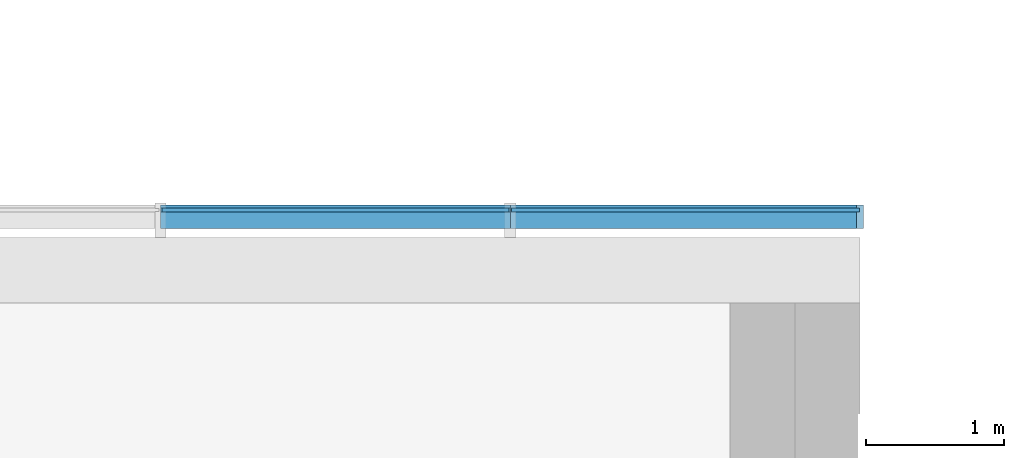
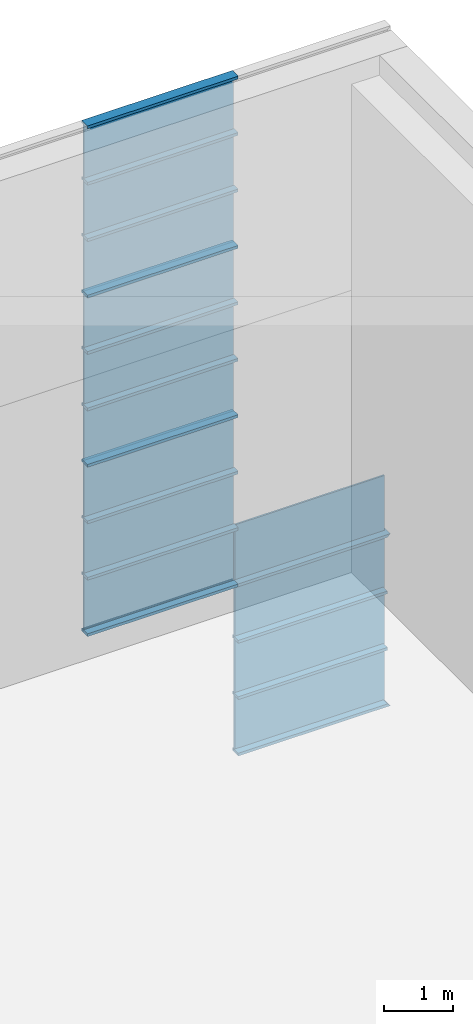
# One storey, part 64 of 105: 30 building element parts, 4 elements without a shape of their own.
"""IFC4 building model written with IfcOpenShell, lengths in millimetres."""

from ifc_helpers import new_model, entity, si_unit, converted_unit, derived_unit, direction, frame, origin_with_axes, place, context, subcontext, project, spatial, triangles, material, element, aggregate, save


model = new_model("IFC4")

# Units and contexts
model_context = context("Model", 3, precision=1e-05, world=origin_with_axes(), true_north=direction((0.0, 1.0)))
body_context = subcontext(model_context, "Body", "Model", "MODEL_VIEW")
ifc_project = project(units=[si_unit("LENGTHUNIT", "METRE", prefix="MILLI"), si_unit("AREAUNIT", "SQUARE_METRE"), si_unit("VOLUMEUNIT", "CUBIC_METRE"), converted_unit("PLANEANGLEUNIT", "DEGREE", entity("IfcLengthMeasure", 0.017453), si_unit("PLANEANGLEUNIT", "RADIAN"), dimensions=[0, 0, 0, 0, 0, 0, 0]), si_unit("SOLIDANGLEUNIT", "STERADIAN"), si_unit("MASSUNIT", "GRAM"), si_unit("TIMEUNIT", "SECOND"), si_unit("THERMODYNAMICTEMPERATUREUNIT", "DEGREE_CELSIUS"), si_unit("LUMINOUSINTENSITYUNIT", "LUMEN"), si_unit("POWERUNIT", "WATT"), derived_unit("THERMALTRANSMITTANCEUNIT", [(si_unit("POWERUNIT", "WATT"), 1), (si_unit("THERMODYNAMICTEMPERATUREUNIT", "KELVIN"), -1), (si_unit("AREAUNIT", "SQUARE_METRE"), -1)])], contexts=[model_context])

# Site, building, storey
site_placement = place(None, origin_with_axes())
site = spatial("IfcSite", under=ifc_project, at=site_placement, Name="Default Site", CompositionType="ELEMENT")
building_placement = place(site_placement, origin_with_axes())
building = spatial("IfcBuilding", under=site, at=building_placement, Name="Default Building", CompositionType="ELEMENT")
storey_placement = place(building_placement, origin_with_axes())
storey = spatial("IfcBuildingStorey", under=building, at=storey_placement, Name="OG - Story", CompositionType="ELEMENT", Elevation=0.0)

# Curtain wall, building element parts
curtain_wall_1_placement = place(storey_placement, origin_with_axes())
curtain_wall_1 = element("IfcCurtainWall", 1, at=curtain_wall_1_placement, inside=storey, Name="Fassade-004", PredefinedType="NOTDEFINED")
ifc_material_1 = material(Name="Normalglas")
building_element_part_1_placement = place(curtain_wall_1_placement, frame((33014.549222, -4389.262838, 0.0), z_axis=(0.0, 0.0, 1.0), x_axis=(1.0, 0.0, 0.0)))
building_element_part_1 = element("IfcBuildingElementPart", 2, at=building_element_part_1_placement, material=ifc_material_1, Name="Normalglas", PredefinedType="NOTDEFINED", context=body_context, shape_type="Tessellation", body=[
    triangles([(46731.842, -14.999, 995.0), (46731.842, 15.0, 995.0), (44220.526, 15.0, 995.0), (44220.526, -14.999, 995.0), (46731.842, -14.999, 5.0), (46731.842, 15.0, 5.0), (44220.526, 15.0, 5.0), (44220.526, -14.999, 5.0)], [[1, 2, 3], [1, 3, 4], [5, 6, 2], [5, 2, 1], [2, 6, 7], [2, 7, 3], [4, 3, 7], [4, 7, 8], [1, 4, 8], [1, 8, 5], [8, 7, 6], [8, 6, 5]], closed=False),
])
building_element_part_2_placement = place(curtain_wall_1_placement, frame((33014.549222, -4389.262838, 0.0), z_axis=(0.0, 0.0, 1.0), x_axis=(1.0, 0.0, 0.0)))
building_element_part_2 = element("IfcBuildingElementPart", 3, at=building_element_part_2_placement, material=ifc_material_1, Name="Normalglas", PredefinedType="NOTDEFINED", context=body_context, shape_type="Tessellation", body=[
    triangles([(46731.842, -14.999, 1995.0), (46731.842, 15.0, 1995.0), (44220.526, 15.0, 1995.0), (44220.526, -14.999, 1995.0), (46731.842, -14.999, 1005.0), (46731.842, 15.0, 1005.0), (44220.526, 15.0, 1005.0), (44220.526, -14.999, 1005.0)], [[1, 2, 3], [1, 3, 4], [5, 6, 2], [5, 2, 1], [2, 6, 7], [2, 7, 3], [4, 3, 7], [4, 7, 8], [1, 4, 8], [1, 8, 5], [8, 7, 6], [8, 6, 5]], closed=False),
])
building_element_part_3_placement = place(curtain_wall_1_placement, frame((33014.549222, -4389.262838, 0.0), z_axis=(0.0, 0.0, 1.0), x_axis=(1.0, 0.0, 0.0)))
building_element_part_3 = element("IfcBuildingElementPart", 4, at=building_element_part_3_placement, material=ifc_material_1, Name="Normalglas", PredefinedType="NOTDEFINED", context=body_context, shape_type="Tessellation", body=[
    triangles([(46731.842, -14.999, 2995.0), (46731.842, 15.0, 2995.0), (44220.526, 15.0, 2995.0), (44220.526, -14.999, 2995.0), (46731.842, -14.999, 2005.0), (46731.842, 15.0, 2005.0), (44220.526, 15.0, 2005.0), (44220.526, -14.999, 2005.0)], [[1, 2, 3], [1, 3, 4], [5, 6, 2], [5, 2, 1], [2, 6, 7], [2, 7, 3], [4, 3, 7], [4, 7, 8], [1, 4, 8], [1, 8, 5], [8, 7, 6], [8, 6, 5]], closed=False),
])
ifc_material_2 = material(Name="Blech")
building_element_part_4_placement = place(curtain_wall_1_placement, frame((33014.549222, -4389.262838, 0.0), z_axis=(0.0, 0.0, 1.0), x_axis=(1.0, 0.0, 0.0)))
building_element_part_4 = element("IfcBuildingElementPart", 5, at=building_element_part_4_placement, material=ifc_material_2, Name="Blech", PredefinedType="NOTDEFINED", context=body_context, shape_type="Tessellation", body=[
    triangles([(46761.842, 35.0, -24.999), (46711.842, 35.0, 25.0), (46711.842, 15.0, 25.0), (46731.842, 15.0, 5.0), (46731.842, -14.999, 5.0), (46711.842, -132.999, 25.0), (46761.842, -132.999, -24.999), (46711.842, -14.999, 25.0), (44210.526, -14.999, 5.0), (44210.526, -14.999, 25.0), (44210.526, -132.999, 25.0), (44210.526, -132.999, -24.999), (44210.526, 35.0, -24.999), (44210.526, 35.0, 25.0), (44210.526, 15.0, 25.0), (44210.526, 15.0, 5.0)], [[1, 2, 3], [1, 3, 4], [1, 4, 5], [1, 5, 6], [1, 6, 7], [8, 6, 5], [5, 9, 10], [5, 10, 8], [10, 11, 6], [10, 6, 8], [11, 12, 7], [11, 7, 6], [12, 13, 1], [12, 1, 7], [13, 14, 2], [13, 2, 1], [3, 2, 14], [3, 14, 15], [15, 16, 4], [15, 4, 3], [4, 16, 9], [4, 9, 5], [15, 16, 13], [13, 16, 9], [13, 9, 11], [11, 9, 10], [13, 11, 12], [15, 13, 14]], closed=False),
])
building_element_part_5_placement = place(curtain_wall_1_placement, frame((33014.549222, -4389.262838, 0.0), z_axis=(0.0, 0.0, 1.0), x_axis=(1.0, 0.0, 0.0)))
building_element_part_5 = element("IfcBuildingElementPart", 6, at=building_element_part_5_placement, material=ifc_material_2, Name="Blech", PredefinedType="NOTDEFINED", context=body_context, shape_type="Tessellation", body=[
    triangles([(46711.842, 35.0, 975.0), (46711.842, 15.0, 975.0), (46711.842, 35.0, 1025.0), (46711.842, 15.0, 995.0), (46711.842, 15.0, 1005.0), (46711.842, -14.999, 995.0), (46711.842, -14.999, 1005.0), (46711.842, -14.999, 1025.0), (46711.842, -14.999, 975.0), (46711.842, -132.999, 975.0), (46711.842, -132.999, 1025.0), (46711.842, 15.0, 1025.0), (44210.526, -14.999, 995.0), (44210.526, 15.0, 995.0), (44210.526, 15.0, 975.0), (44210.526, 35.0, 975.0), (44210.526, 35.0, 1025.0), (44210.526, 15.0, 1025.0), (44210.526, 15.0, 1005.0), (44210.526, -14.999, 1005.0), (44210.526, -14.999, 1025.0), (44210.526, -132.999, 1025.0), (44210.526, -132.999, 975.0), (44210.526, -14.999, 975.0)], [[1, 2, 3], [3, 2, 4], [3, 4, 5], [5, 4, 6], [5, 6, 7], [8, 9, 10], [8, 10, 11], [3, 5, 12], [6, 13, 14], [6, 14, 4], [4, 14, 15], [4, 15, 2], [15, 16, 1], [15, 1, 2], [1, 16, 17], [1, 17, 3], [18, 12, 3], [18, 3, 17], [12, 18, 19], [12, 19, 5], [7, 5, 19], [7, 19, 20], [8, 7, 20], [8, 20, 21], [8, 21, 22], [8, 22, 11], [11, 22, 23], [11, 23, 10], [9, 10, 23], [9, 23, 24], [9, 24, 13], [9, 13, 6], [17, 18, 16], [16, 18, 19], [16, 19, 14], [14, 19, 20], [14, 20, 13], [24, 21, 22], [24, 22, 23], [16, 14, 15]], closed=False),
])
building_element_part_6_placement = place(curtain_wall_1_placement, frame((33014.549222, -4389.262838, 0.0), z_axis=(0.0, 0.0, 1.0), x_axis=(1.0, 0.0, 0.0)))
building_element_part_6 = element("IfcBuildingElementPart", 7, at=building_element_part_6_placement, material=ifc_material_2, Name="Blech", PredefinedType="NOTDEFINED", context=body_context, shape_type="Tessellation", body=[
    triangles([(44210.526, 15.0, 2975.0), (44210.526, 15.0, 2995.0), (44210.526, 35.0, 3025.0), (44210.526, -14.999, 2995.0), (44210.526, -132.999, 2975.0), (44210.526, -14.999, 2975.0), (44210.526, -132.999, 3025.0), (44210.526, 35.0, 2975.0), (41684.211, -14.999, 2995.0), (41684.211, 15.0, 2995.0), (41684.211, 15.0, 2975.0), (41684.211, 35.0, 2975.0), (41684.211, 35.0, 3025.0), (41684.211, -132.999, 3025.0), (41684.211, -132.999, 2975.0), (41684.211, -14.999, 2975.0)], [[1, 2, 3], [3, 2, 4], [3, 4, 5], [5, 4, 6], [3, 5, 7], [1, 3, 8], [2, 4, 9], [2, 9, 10], [11, 1, 2], [11, 2, 10], [1, 11, 12], [1, 12, 8], [13, 3, 8], [13, 8, 12], [14, 7, 3], [14, 3, 13], [15, 5, 7], [15, 7, 14], [16, 6, 5], [16, 5, 15], [4, 6, 16], [4, 16, 9], [13, 12, 11], [13, 11, 10], [13, 10, 9], [13, 9, 15], [13, 15, 14], [16, 15, 9]], closed=False),
])
building_element_part_7_placement = place(curtain_wall_1_placement, frame((33014.549222, -4389.262838, 0.0), z_axis=(0.0, 0.0, 1.0), x_axis=(1.0, 0.0, 0.0)))
building_element_part_7 = element("IfcBuildingElementPart", 8, at=building_element_part_7_placement, material=ifc_material_2, Name="Blech", PredefinedType="NOTDEFINED", context=body_context, shape_type="Tessellation", body=[
    triangles([(46711.842, 35.0, 1975.0), (46711.842, 15.0, 1975.0), (46711.842, 35.0, 2025.0), (46711.842, 15.0, 1995.0), (46711.842, 15.0, 2005.0), (46711.842, -14.999, 1995.0), (46711.842, -14.999, 2005.0), (46711.842, -14.999, 2025.0), (46711.842, -14.999, 1975.0), (46711.842, -132.999, 1975.0), (46711.842, -132.999, 2025.0), (46711.842, 15.0, 2025.0), (44210.526, -14.999, 1995.0), (44210.526, 15.0, 1995.0), (44210.526, 15.0, 1975.0), (44210.526, 35.0, 1975.0), (44210.526, 35.0, 2025.0), (44210.526, 15.0, 2025.0), (44210.526, 15.0, 2005.0), (44210.526, -14.999, 2005.0), (44210.526, -14.999, 2025.0), (44210.526, -132.999, 2025.0), (44210.526, -132.999, 1975.0), (44210.526, -14.999, 1975.0)], [[1, 2, 3], [3, 2, 4], [3, 4, 5], [5, 4, 6], [5, 6, 7], [8, 9, 10], [8, 10, 11], [3, 5, 12], [6, 13, 14], [6, 14, 4], [4, 14, 15], [4, 15, 2], [15, 16, 1], [15, 1, 2], [1, 16, 17], [1, 17, 3], [18, 12, 3], [18, 3, 17], [12, 18, 19], [12, 19, 5], [7, 5, 19], [7, 19, 20], [8, 7, 20], [8, 20, 21], [8, 21, 22], [8, 22, 11], [11, 22, 23], [11, 23, 10], [9, 10, 23], [9, 23, 24], [9, 24, 13], [9, 13, 6], [17, 18, 16], [16, 18, 19], [16, 19, 14], [14, 19, 20], [14, 20, 13], [24, 21, 22], [24, 22, 23], [16, 14, 15]], closed=False),
])
building_element_part_8_placement = place(curtain_wall_1_placement, frame((33014.549222, -4389.262838, 0.0), z_axis=(0.0, 0.0, 1.0), x_axis=(1.0, 0.0, 0.0)))
building_element_part_8 = element("IfcBuildingElementPart", 9, at=building_element_part_8_placement, material=ifc_material_2, Name="Blech", PredefinedType="NOTDEFINED", context=body_context, shape_type="Tessellation", body=[
    triangles([(46711.842, 15.0, 2975.0), (46731.842, 15.0, 2995.0), (46761.842, 35.0, 3025.0), (46731.842, -14.999, 2995.0), (46711.842, -132.999, 2975.0), (46711.842, -14.999, 2975.0), (46761.842, -132.999, 3025.0), (46711.842, 35.0, 2975.0), (44210.526, -14.999, 2995.0), (44210.526, 15.0, 2995.0), (44210.526, 15.0, 2975.0), (44210.526, 35.0, 2975.0), (44210.526, 35.0, 3025.0), (44210.526, -132.999, 3025.0), (44210.526, -132.999, 2975.0), (44210.526, -14.999, 2975.0)], [[1, 2, 3], [3, 2, 4], [3, 4, 5], [5, 4, 6], [3, 5, 7], [1, 3, 8], [2, 4, 9], [2, 9, 10], [11, 1, 2], [11, 2, 10], [1, 11, 12], [1, 12, 8], [13, 3, 8], [13, 8, 12], [14, 7, 3], [14, 3, 13], [15, 5, 7], [15, 7, 14], [16, 6, 5], [16, 5, 15], [4, 6, 16], [4, 16, 9], [13, 12, 11], [13, 11, 10], [13, 10, 9], [13, 9, 15], [13, 15, 14], [16, 15, 9]], closed=False),
])
aggregate(curtain_wall_1, [building_element_part_1, building_element_part_2, building_element_part_3, building_element_part_4, building_element_part_5, building_element_part_6, building_element_part_7, building_element_part_8])

curtain_wall_2_placement = place(storey_placement, origin_with_axes())
curtain_wall_2 = element("IfcCurtainWall", 10, at=curtain_wall_2_placement, inside=storey, Name="Fassade-004", PredefinedType="NOTDEFINED")
building_element_part_9_placement = place(curtain_wall_2_placement, frame((33014.549222, -4389.262838, 3000.0), z_axis=(0.0, 0.0, 1.0), x_axis=(1.0, 0.0, 0.0)))
building_element_part_9 = element("IfcBuildingElementPart", 11, at=building_element_part_9_placement, material=ifc_material_1, Name="Normalglas", PredefinedType="NOTDEFINED", context=body_context, shape_type="Tessellation", body=[
    triangles([(44200.526, -14.999, 995.0), (44200.526, 15.0, 995.0), (41694.211, 15.0, 995.0), (41694.211, -14.999, 995.0), (44200.526, -14.999, 5.0), (44200.526, 15.0, 5.0), (41694.211, 15.0, 5.0), (41694.211, -14.999, 5.0)], [[1, 2, 3], [1, 3, 4], [5, 6, 2], [5, 2, 1], [2, 6, 7], [2, 7, 3], [4, 3, 7], [4, 7, 8], [1, 4, 8], [1, 8, 5], [8, 7, 6], [8, 6, 5]], closed=False),
])
building_element_part_10_placement = place(curtain_wall_2_placement, frame((33014.549222, -4389.262838, 3000.0), z_axis=(0.0, 0.0, 1.0), x_axis=(1.0, 0.0, 0.0)))
building_element_part_10 = element("IfcBuildingElementPart", 12, at=building_element_part_10_placement, material=ifc_material_1, Name="Normalglas", PredefinedType="NOTDEFINED", context=body_context, shape_type="Tessellation", body=[
    triangles([(46731.842, -14.999, 995.0), (46731.842, 15.0, 995.0), (44220.526, 15.0, 995.0), (44220.526, -14.999, 995.0), (46731.842, -14.999, 5.0), (46731.842, 15.0, 5.0), (44220.526, 15.0, 5.0), (44220.526, -14.999, 5.0)], [[1, 2, 3], [1, 3, 4], [5, 6, 2], [5, 2, 1], [2, 6, 7], [2, 7, 3], [4, 3, 7], [4, 7, 8], [1, 4, 8], [1, 8, 5], [8, 7, 6], [8, 6, 5]], closed=False),
])
building_element_part_11_placement = place(curtain_wall_2_placement, frame((33014.549222, -4389.262838, 3000.0), z_axis=(0.0, 0.0, 1.0), x_axis=(1.0, 0.0, 0.0)))
building_element_part_11 = element("IfcBuildingElementPart", 13, at=building_element_part_11_placement, material=ifc_material_1, Name="Normalglas", PredefinedType="NOTDEFINED", context=body_context, shape_type="Tessellation", body=[
    triangles([(44200.526, -14.999, 1995.0), (44200.526, 15.0, 1995.0), (41694.211, 15.0, 1995.0), (41694.211, -14.999, 1995.0), (44200.526, -14.999, 1005.0), (44200.526, 15.0, 1005.0), (41694.211, 15.0, 1005.0), (41694.211, -14.999, 1005.0)], [[1, 2, 3], [1, 3, 4], [5, 6, 2], [5, 2, 1], [2, 6, 7], [2, 7, 3], [4, 3, 7], [4, 7, 8], [1, 4, 8], [1, 8, 5], [8, 7, 6], [8, 6, 5]], closed=False),
])
building_element_part_12_placement = place(curtain_wall_2_placement, frame((33014.549222, -4389.262838, 3000.0), z_axis=(0.0, 0.0, 1.0), x_axis=(1.0, 0.0, 0.0)))
building_element_part_12 = element("IfcBuildingElementPart", 14, at=building_element_part_12_placement, material=ifc_material_1, Name="Normalglas", PredefinedType="NOTDEFINED", context=body_context, shape_type="Tessellation", body=[
    triangles([(44200.526, -14.999, 2995.0), (44200.526, 15.0, 2995.0), (41694.211, 15.0, 2995.0), (41694.211, -14.999, 2995.0), (44200.526, -14.999, 2005.0), (44200.526, 15.0, 2005.0), (41694.211, 15.0, 2005.0), (41694.211, -14.999, 2005.0)], [[1, 2, 3], [1, 3, 4], [5, 6, 2], [5, 2, 1], [2, 6, 7], [2, 7, 3], [4, 3, 7], [4, 7, 8], [1, 4, 8], [1, 8, 5], [8, 7, 6], [8, 6, 5]], closed=False),
])
building_element_part_13_placement = place(curtain_wall_2_placement, frame((33014.549222, -4389.262838, 3000.0), z_axis=(0.0, 0.0, 1.0), x_axis=(1.0, 0.0, 0.0)))
building_element_part_13 = element("IfcBuildingElementPart", 15, at=building_element_part_13_placement, material=ifc_material_2, Name="Blech", PredefinedType="NOTDEFINED", context=body_context, shape_type="Tessellation", body=[
    triangles([(44210.526, 35.0, -24.999), (44210.526, 35.0, 25.0), (44210.526, 15.0, 25.0), (44210.526, 15.0, 5.0), (44210.526, -14.999, 5.0), (44210.526, -132.999, 25.0), (44210.526, -132.999, -24.999), (44210.526, -14.999, 25.0), (41684.211, -14.999, 5.0), (41684.211, -14.999, 25.0), (41684.211, -132.999, 25.0), (41684.211, -132.999, -24.999), (41684.211, 35.0, -24.999), (41684.211, 35.0, 25.0), (41684.211, 15.0, 25.0), (41684.211, 15.0, 5.0)], [[1, 2, 3], [1, 3, 4], [1, 4, 5], [1, 5, 6], [1, 6, 7], [8, 6, 5], [5, 9, 10], [5, 10, 8], [10, 11, 6], [10, 6, 8], [11, 12, 7], [11, 7, 6], [12, 13, 1], [12, 1, 7], [13, 14, 2], [13, 2, 1], [3, 2, 14], [3, 14, 15], [15, 16, 4], [15, 4, 3], [4, 16, 9], [4, 9, 5], [15, 16, 13], [13, 16, 9], [13, 9, 11], [11, 9, 10], [13, 11, 12], [15, 13, 14]], closed=False),
])
building_element_part_14_placement = place(curtain_wall_2_placement, frame((33014.549222, -4389.262838, 3000.0), z_axis=(0.0, 0.0, 1.0), x_axis=(1.0, 0.0, 0.0)))
building_element_part_14 = element("IfcBuildingElementPart", 16, at=building_element_part_14_placement, material=ifc_material_2, Name="Blech", PredefinedType="NOTDEFINED", context=body_context, shape_type="Tessellation", body=[
    triangles([(44210.526, 35.0, 975.0), (44210.526, 15.0, 975.0), (44210.526, 35.0, 1025.0), (44210.526, 15.0, 995.0), (44210.526, 15.0, 1005.0), (44210.526, -14.999, 995.0), (44210.526, -14.999, 1005.0), (44210.526, -14.999, 1025.0), (44210.526, -14.999, 975.0), (44210.526, -132.999, 975.0), (44210.526, -132.999, 1025.0), (44210.526, 15.0, 1025.0), (41684.211, -14.999, 995.0), (41684.211, 15.0, 995.0), (41684.211, 15.0, 975.0), (41684.211, 35.0, 975.0), (41684.211, 35.0, 1025.0), (41684.211, 15.0, 1025.0), (41684.211, 15.0, 1005.0), (41684.211, -14.999, 1005.0), (41684.211, -14.999, 1025.0), (41684.211, -132.999, 1025.0), (41684.211, -132.999, 975.0), (41684.211, -14.999, 975.0)], [[1, 2, 3], [3, 2, 4], [3, 4, 5], [5, 4, 6], [5, 6, 7], [8, 9, 10], [8, 10, 11], [3, 5, 12], [6, 13, 14], [6, 14, 4], [4, 14, 15], [4, 15, 2], [15, 16, 1], [15, 1, 2], [1, 16, 17], [1, 17, 3], [18, 12, 3], [18, 3, 17], [12, 18, 19], [12, 19, 5], [7, 5, 19], [7, 19, 20], [8, 7, 20], [8, 20, 21], [8, 21, 22], [8, 22, 11], [11, 22, 23], [11, 23, 10], [9, 10, 23], [9, 23, 24], [9, 24, 13], [9, 13, 6], [17, 18, 16], [16, 18, 19], [16, 19, 14], [14, 19, 20], [14, 20, 13], [24, 21, 22], [24, 22, 23], [16, 14, 15]], closed=False),
])
building_element_part_15_placement = place(curtain_wall_2_placement, frame((33014.549222, -4389.262838, 3000.0), z_axis=(0.0, 0.0, 1.0), x_axis=(1.0, 0.0, 0.0)))
building_element_part_15 = element("IfcBuildingElementPart", 17, at=building_element_part_15_placement, material=ifc_material_2, Name="Blech", PredefinedType="NOTDEFINED", context=body_context, shape_type="Tessellation", body=[
    triangles([(44210.526, 35.0, 1975.0), (44210.526, 15.0, 1975.0), (44210.526, 35.0, 2025.0), (44210.526, 15.0, 1995.0), (44210.526, 15.0, 2005.0), (44210.526, -14.999, 1995.0), (44210.526, -14.999, 2005.0), (44210.526, -14.999, 2025.0), (44210.526, -14.999, 1975.0), (44210.526, -132.999, 1975.0), (44210.526, -132.999, 2025.0), (44210.526, 15.0, 2025.0), (41684.211, -14.999, 1995.0), (41684.211, 15.0, 1995.0), (41684.211, 15.0, 1975.0), (41684.211, 35.0, 1975.0), (41684.211, 35.0, 2025.0), (41684.211, 15.0, 2025.0), (41684.211, 15.0, 2005.0), (41684.211, -14.999, 2005.0), (41684.211, -14.999, 2025.0), (41684.211, -132.999, 2025.0), (41684.211, -132.999, 1975.0), (41684.211, -14.999, 1975.0)], [[1, 2, 3], [3, 2, 4], [3, 4, 5], [5, 4, 6], [5, 6, 7], [8, 9, 10], [8, 10, 11], [3, 5, 12], [6, 13, 14], [6, 14, 4], [4, 14, 15], [4, 15, 2], [15, 16, 1], [15, 1, 2], [1, 16, 17], [1, 17, 3], [18, 12, 3], [18, 3, 17], [12, 18, 19], [12, 19, 5], [7, 5, 19], [7, 19, 20], [8, 7, 20], [8, 20, 21], [8, 21, 22], [8, 22, 11], [11, 22, 23], [11, 23, 10], [9, 10, 23], [9, 23, 24], [9, 24, 13], [9, 13, 6], [17, 18, 16], [16, 18, 19], [16, 19, 14], [14, 19, 20], [14, 20, 13], [24, 21, 22], [24, 22, 23], [16, 14, 15]], closed=False),
])
building_element_part_16_placement = place(curtain_wall_2_placement, frame((33014.549222, -4389.262838, 3000.0), z_axis=(0.0, 0.0, 1.0), x_axis=(1.0, 0.0, 0.0)))
building_element_part_16 = element("IfcBuildingElementPart", 18, at=building_element_part_16_placement, material=ifc_material_2, Name="Blech", PredefinedType="NOTDEFINED", context=body_context, shape_type="Tessellation", body=[
    triangles([(44210.526, 15.0, 2975.0), (44210.526, 15.0, 2995.0), (44210.526, 35.0, 3025.0), (44210.526, -14.999, 2995.0), (44210.526, -132.999, 2975.0), (44210.526, -14.999, 2975.0), (44210.526, -132.999, 3025.0), (44210.526, 35.0, 2975.0), (41684.211, -14.999, 2995.0), (41684.211, 15.0, 2995.0), (41684.211, 15.0, 2975.0), (41684.211, 35.0, 2975.0), (41684.211, 35.0, 3025.0), (41684.211, -132.999, 3025.0), (41684.211, -132.999, 2975.0), (41684.211, -14.999, 2975.0)], [[1, 2, 3], [3, 2, 4], [3, 4, 5], [5, 4, 6], [3, 5, 7], [1, 3, 8], [2, 4, 9], [2, 9, 10], [11, 1, 2], [11, 2, 10], [1, 11, 12], [1, 12, 8], [13, 3, 8], [13, 8, 12], [14, 7, 3], [14, 3, 13], [15, 5, 7], [15, 7, 14], [16, 6, 5], [16, 5, 15], [4, 6, 16], [4, 16, 9], [13, 12, 11], [13, 11, 10], [13, 10, 9], [13, 9, 15], [13, 15, 14], [16, 15, 9]], closed=False),
])
aggregate(curtain_wall_2, [building_element_part_9, building_element_part_10, building_element_part_11, building_element_part_12, building_element_part_13, building_element_part_14, building_element_part_15, building_element_part_16])

curtain_wall_3_placement = place(storey_placement, origin_with_axes())
curtain_wall_3 = element("IfcCurtainWall", 19, at=curtain_wall_3_placement, inside=storey, Name="Fassade-004", PredefinedType="NOTDEFINED")
building_element_part_17_placement = place(curtain_wall_3_placement, frame((33014.549222, -4389.262838, 6000.0), z_axis=(0.0, 0.0, 1.0), x_axis=(1.0, 0.0, 0.0)))
building_element_part_17 = element("IfcBuildingElementPart", 20, at=building_element_part_17_placement, material=ifc_material_1, Name="Normalglas", PredefinedType="NOTDEFINED", context=body_context, shape_type="Tessellation", body=[
    triangles([(44200.526, -14.999, 995.0), (44200.526, 15.0, 995.0), (41694.211, 15.0, 995.0), (41694.211, -14.999, 995.0), (44200.526, -14.999, 5.0), (44200.526, 15.0, 5.0), (41694.211, 15.0, 5.0), (41694.211, -14.999, 5.0)], [[1, 2, 3], [1, 3, 4], [5, 6, 2], [5, 2, 1], [2, 6, 7], [2, 7, 3], [4, 3, 7], [4, 7, 8], [1, 4, 8], [1, 8, 5], [8, 7, 6], [8, 6, 5]], closed=False),
])
building_element_part_18_placement = place(curtain_wall_3_placement, frame((33014.549222, -4389.262838, 6000.0), z_axis=(0.0, 0.0, 1.0), x_axis=(1.0, 0.0, 0.0)))
building_element_part_18 = element("IfcBuildingElementPart", 21, at=building_element_part_18_placement, material=ifc_material_1, Name="Normalglas", PredefinedType="NOTDEFINED", context=body_context, shape_type="Tessellation", body=[
    triangles([(44200.526, -14.999, 1995.0), (44200.526, 15.0, 1995.0), (41694.211, 15.0, 1995.0), (41694.211, -14.999, 1995.0), (44200.526, -14.999, 1005.0), (44200.526, 15.0, 1005.0), (41694.211, 15.0, 1005.0), (41694.211, -14.999, 1005.0)], [[1, 2, 3], [1, 3, 4], [5, 6, 2], [5, 2, 1], [2, 6, 7], [2, 7, 3], [4, 3, 7], [4, 7, 8], [1, 4, 8], [1, 8, 5], [8, 7, 6], [8, 6, 5]], closed=False),
])
building_element_part_19_placement = place(curtain_wall_3_placement, frame((33014.549222, -4389.262838, 6000.0), z_axis=(0.0, 0.0, 1.0), x_axis=(1.0, 0.0, 0.0)))
building_element_part_19 = element("IfcBuildingElementPart", 22, at=building_element_part_19_placement, material=ifc_material_1, Name="Normalglas", PredefinedType="NOTDEFINED", context=body_context, shape_type="Tessellation", body=[
    triangles([(44200.526, -14.999, 2995.0), (44200.526, 15.0, 2995.0), (41694.211, 15.0, 2995.0), (41694.211, -14.999, 2995.0), (44200.526, -14.999, 2005.0), (44200.526, 15.0, 2005.0), (41694.211, 15.0, 2005.0), (41694.211, -14.999, 2005.0)], [[1, 2, 3], [1, 3, 4], [5, 6, 2], [5, 2, 1], [2, 6, 7], [2, 7, 3], [4, 3, 7], [4, 7, 8], [1, 4, 8], [1, 8, 5], [8, 7, 6], [8, 6, 5]], closed=False),
])
building_element_part_20_placement = place(curtain_wall_3_placement, frame((33014.549222, -4389.262838, 6000.0), z_axis=(0.0, 0.0, 1.0), x_axis=(1.0, 0.0, 0.0)))
building_element_part_20 = element("IfcBuildingElementPart", 23, at=building_element_part_20_placement, material=ifc_material_2, Name="Blech", PredefinedType="NOTDEFINED", context=body_context, shape_type="Tessellation", body=[
    triangles([(44210.526, 35.0, -24.999), (44210.526, 35.0, 25.0), (44210.526, 15.0, 25.0), (44210.526, 15.0, 5.0), (44210.526, -14.999, 5.0), (44210.526, -132.999, 25.0), (44210.526, -132.999, -24.999), (44210.526, -14.999, 25.0), (41684.211, -14.999, 5.0), (41684.211, -14.999, 25.0), (41684.211, -132.999, 25.0), (41684.211, -132.999, -24.999), (41684.211, 35.0, -24.999), (41684.211, 35.0, 25.0), (41684.211, 15.0, 25.0), (41684.211, 15.0, 5.0)], [[1, 2, 3], [1, 3, 4], [1, 4, 5], [1, 5, 6], [1, 6, 7], [8, 6, 5], [5, 9, 10], [5, 10, 8], [10, 11, 6], [10, 6, 8], [11, 12, 7], [11, 7, 6], [12, 13, 1], [12, 1, 7], [13, 14, 2], [13, 2, 1], [3, 2, 14], [3, 14, 15], [15, 16, 4], [15, 4, 3], [4, 16, 9], [4, 9, 5], [15, 16, 13], [13, 16, 9], [13, 9, 11], [11, 9, 10], [13, 11, 12], [15, 13, 14]], closed=False),
])
building_element_part_21_placement = place(curtain_wall_3_placement, frame((33014.549222, -4389.262838, 6000.0), z_axis=(0.0, 0.0, 1.0), x_axis=(1.0, 0.0, 0.0)))
building_element_part_21 = element("IfcBuildingElementPart", 24, at=building_element_part_21_placement, material=ifc_material_2, Name="Blech", PredefinedType="NOTDEFINED", context=body_context, shape_type="Tessellation", body=[
    triangles([(44210.526, 35.0, 975.0), (44210.526, 15.0, 975.0), (44210.526, 35.0, 1025.0), (44210.526, 15.0, 995.0), (44210.526, 15.0, 1005.0), (44210.526, -14.999, 995.0), (44210.526, -14.999, 1005.0), (44210.526, -14.999, 1025.0), (44210.526, -14.999, 975.0), (44210.526, -132.999, 975.0), (44210.526, -132.999, 1025.0), (44210.526, 15.0, 1025.0), (41684.211, -14.999, 995.0), (41684.211, 15.0, 995.0), (41684.211, 15.0, 975.0), (41684.211, 35.0, 975.0), (41684.211, 35.0, 1025.0), (41684.211, 15.0, 1025.0), (41684.211, 15.0, 1005.0), (41684.211, -14.999, 1005.0), (41684.211, -14.999, 1025.0), (41684.211, -132.999, 1025.0), (41684.211, -132.999, 975.0), (41684.211, -14.999, 975.0)], [[1, 2, 3], [3, 2, 4], [3, 4, 5], [5, 4, 6], [5, 6, 7], [8, 9, 10], [8, 10, 11], [3, 5, 12], [6, 13, 14], [6, 14, 4], [4, 14, 15], [4, 15, 2], [15, 16, 1], [15, 1, 2], [1, 16, 17], [1, 17, 3], [18, 12, 3], [18, 3, 17], [12, 18, 19], [12, 19, 5], [7, 5, 19], [7, 19, 20], [8, 7, 20], [8, 20, 21], [8, 21, 22], [8, 22, 11], [11, 22, 23], [11, 23, 10], [9, 10, 23], [9, 23, 24], [9, 24, 13], [9, 13, 6], [17, 18, 16], [16, 18, 19], [16, 19, 14], [14, 19, 20], [14, 20, 13], [24, 21, 22], [24, 22, 23], [16, 14, 15]], closed=False),
])
building_element_part_22_placement = place(curtain_wall_3_placement, frame((33014.549222, -4389.262838, 6000.0), z_axis=(0.0, 0.0, 1.0), x_axis=(1.0, 0.0, 0.0)))
building_element_part_22 = element("IfcBuildingElementPart", 25, at=building_element_part_22_placement, material=ifc_material_2, Name="Blech", PredefinedType="NOTDEFINED", context=body_context, shape_type="Tessellation", body=[
    triangles([(44210.526, 35.0, 1975.0), (44210.526, 15.0, 1975.0), (44210.526, 35.0, 2025.0), (44210.526, 15.0, 1995.0), (44210.526, 15.0, 2005.0), (44210.526, -14.999, 1995.0), (44210.526, -14.999, 2005.0), (44210.526, -14.999, 2025.0), (44210.526, -14.999, 1975.0), (44210.526, -132.999, 1975.0), (44210.526, -132.999, 2025.0), (44210.526, 15.0, 2025.0), (41684.211, -14.999, 1995.0), (41684.211, 15.0, 1995.0), (41684.211, 15.0, 1975.0), (41684.211, 35.0, 1975.0), (41684.211, 35.0, 2025.0), (41684.211, 15.0, 2025.0), (41684.211, 15.0, 2005.0), (41684.211, -14.999, 2005.0), (41684.211, -14.999, 2025.0), (41684.211, -132.999, 2025.0), (41684.211, -132.999, 1975.0), (41684.211, -14.999, 1975.0)], [[1, 2, 3], [3, 2, 4], [3, 4, 5], [5, 4, 6], [5, 6, 7], [8, 9, 10], [8, 10, 11], [3, 5, 12], [6, 13, 14], [6, 14, 4], [4, 14, 15], [4, 15, 2], [15, 16, 1], [15, 1, 2], [1, 16, 17], [1, 17, 3], [18, 12, 3], [18, 3, 17], [12, 18, 19], [12, 19, 5], [7, 5, 19], [7, 19, 20], [8, 7, 20], [8, 20, 21], [8, 21, 22], [8, 22, 11], [11, 22, 23], [11, 23, 10], [9, 10, 23], [9, 23, 24], [9, 24, 13], [9, 13, 6], [17, 18, 16], [16, 18, 19], [16, 19, 14], [14, 19, 20], [14, 20, 13], [24, 21, 22], [24, 22, 23], [16, 14, 15]], closed=False),
])
building_element_part_23_placement = place(curtain_wall_3_placement, frame((33014.549222, -4389.262838, 6000.0), z_axis=(0.0, 0.0, 1.0), x_axis=(1.0, 0.0, 0.0)))
building_element_part_23 = element("IfcBuildingElementPart", 26, at=building_element_part_23_placement, material=ifc_material_2, Name="Blech", PredefinedType="NOTDEFINED", context=body_context, shape_type="Tessellation", body=[
    triangles([(44210.526, 15.0, 2975.0), (44210.526, 15.0, 2995.0), (44210.526, 35.0, 3025.0), (44210.526, -14.999, 2995.0), (44210.526, -132.999, 2975.0), (44210.526, -14.999, 2975.0), (44210.526, -132.999, 3025.0), (44210.526, 35.0, 2975.0), (41684.211, -14.999, 2995.0), (41684.211, 15.0, 2995.0), (41684.211, 15.0, 2975.0), (41684.211, 35.0, 2975.0), (41684.211, 35.0, 3025.0), (41684.211, -132.999, 3025.0), (41684.211, -132.999, 2975.0), (41684.211, -14.999, 2975.0)], [[1, 2, 3], [3, 2, 4], [3, 4, 5], [5, 4, 6], [3, 5, 7], [1, 3, 8], [2, 4, 9], [2, 9, 10], [11, 1, 2], [11, 2, 10], [1, 11, 12], [1, 12, 8], [13, 3, 8], [13, 8, 12], [14, 7, 3], [14, 3, 13], [15, 5, 7], [15, 7, 14], [16, 6, 5], [16, 5, 15], [4, 6, 16], [4, 16, 9], [13, 12, 11], [13, 11, 10], [13, 10, 9], [13, 9, 15], [13, 15, 14], [16, 15, 9]], closed=False),
])
aggregate(curtain_wall_3, [building_element_part_17, building_element_part_18, building_element_part_19, building_element_part_20, building_element_part_21, building_element_part_22, building_element_part_23])

curtain_wall_4_placement = place(storey_placement, origin_with_axes())
curtain_wall_4 = element("IfcCurtainWall", 27, at=curtain_wall_4_placement, inside=storey, Name="Fassade-004", PredefinedType="NOTDEFINED")
building_element_part_24_placement = place(curtain_wall_4_placement, frame((33014.549222, -4389.262838, 9000.0), z_axis=(0.0, 0.0, 1.0), x_axis=(1.0, 0.0, 0.0)))
building_element_part_24 = element("IfcBuildingElementPart", 28, at=building_element_part_24_placement, material=ifc_material_1, Name="Normalglas", PredefinedType="NOTDEFINED", context=body_context, shape_type="Tessellation", body=[
    triangles([(44200.526, -14.999, 995.0), (44200.526, 15.0, 995.0), (41694.211, 15.0, 995.0), (41694.211, -14.999, 995.0), (44200.526, -14.999, 5.0), (44200.526, 15.0, 5.0), (41694.211, 15.0, 5.0), (41694.211, -14.999, 5.0)], [[1, 2, 3], [1, 3, 4], [5, 6, 2], [5, 2, 1], [2, 6, 7], [2, 7, 3], [4, 3, 7], [4, 7, 8], [1, 4, 8], [1, 8, 5], [8, 7, 6], [8, 6, 5]], closed=False),
])
building_element_part_25_placement = place(curtain_wall_4_placement, frame((33014.549222, -4389.262838, 9000.0), z_axis=(0.0, 0.0, 1.0), x_axis=(1.0, 0.0, 0.0)))
building_element_part_25 = element("IfcBuildingElementPart", 29, at=building_element_part_25_placement, material=ifc_material_1, Name="Normalglas", PredefinedType="NOTDEFINED", context=body_context, shape_type="Tessellation", body=[
    triangles([(44200.526, -14.999, 1995.0), (44200.526, 15.0, 1995.0), (41694.211, 15.0, 1995.0), (41694.211, -14.999, 1995.0), (44200.526, -14.999, 1005.0), (44200.526, 15.0, 1005.0), (41694.211, 15.0, 1005.0), (41694.211, -14.999, 1005.0)], [[1, 2, 3], [1, 3, 4], [5, 6, 2], [5, 2, 1], [2, 6, 7], [2, 7, 3], [4, 3, 7], [4, 7, 8], [1, 4, 8], [1, 8, 5], [8, 7, 6], [8, 6, 5]], closed=False),
])
building_element_part_26_placement = place(curtain_wall_4_placement, frame((33014.549222, -4389.262838, 9000.0), z_axis=(0.0, 0.0, 1.0), x_axis=(1.0, 0.0, 0.0)))
building_element_part_26 = element("IfcBuildingElementPart", 30, at=building_element_part_26_placement, material=ifc_material_1, Name="Normalglas", PredefinedType="NOTDEFINED", context=body_context, shape_type="Tessellation", body=[
    triangles([(44200.526, -14.999, 2995.0), (44200.526, 15.0, 2995.0), (41694.211, 15.0, 2995.0), (41694.211, -14.999, 2995.0), (44200.526, -14.999, 2005.0), (44200.526, 15.0, 2005.0), (41694.211, 15.0, 2005.0), (41694.211, -14.999, 2005.0)], [[1, 2, 3], [1, 3, 4], [5, 6, 2], [5, 2, 1], [2, 6, 7], [2, 7, 3], [4, 3, 7], [4, 7, 8], [1, 4, 8], [1, 8, 5], [8, 7, 6], [8, 6, 5]], closed=False),
])
building_element_part_27_placement = place(curtain_wall_4_placement, frame((33014.549222, -4389.262838, 9000.0), z_axis=(0.0, 0.0, 1.0), x_axis=(1.0, 0.0, 0.0)))
building_element_part_27 = element("IfcBuildingElementPart", 31, at=building_element_part_27_placement, material=ifc_material_2, Name="Blech", PredefinedType="NOTDEFINED", context=body_context, shape_type="Tessellation", body=[
    triangles([(44210.526, 35.0, -24.999), (44210.526, 35.0, 25.0), (44210.526, 15.0, 25.0), (44210.526, 15.0, 5.0), (44210.526, -14.999, 5.0), (44210.526, -132.999, 25.0), (44210.526, -132.999, -24.999), (44210.526, -14.999, 25.0), (41684.211, -14.999, 5.0), (41684.211, -14.999, 25.0), (41684.211, -132.999, 25.0), (41684.211, -132.999, -24.999), (41684.211, 35.0, -24.999), (41684.211, 35.0, 25.0), (41684.211, 15.0, 25.0), (41684.211, 15.0, 5.0)], [[1, 2, 3], [1, 3, 4], [1, 4, 5], [1, 5, 6], [1, 6, 7], [8, 6, 5], [5, 9, 10], [5, 10, 8], [10, 11, 6], [10, 6, 8], [11, 12, 7], [11, 7, 6], [12, 13, 1], [12, 1, 7], [13, 14, 2], [13, 2, 1], [3, 2, 14], [3, 14, 15], [15, 16, 4], [15, 4, 3], [4, 16, 9], [4, 9, 5], [15, 16, 13], [13, 16, 9], [13, 9, 11], [11, 9, 10], [13, 11, 12], [15, 13, 14]], closed=False),
])
building_element_part_28_placement = place(curtain_wall_4_placement, frame((33014.549222, -4389.262838, 9000.0), z_axis=(0.0, 0.0, 1.0), x_axis=(1.0, 0.0, 0.0)))
building_element_part_28 = element("IfcBuildingElementPart", 32, at=building_element_part_28_placement, material=ifc_material_2, Name="Blech", PredefinedType="NOTDEFINED", context=body_context, shape_type="Tessellation", body=[
    triangles([(44210.526, 35.0, 975.0), (44210.526, 15.0, 975.0), (44210.526, 35.0, 1025.0), (44210.526, 15.0, 995.0), (44210.526, 15.0, 1005.0), (44210.526, -14.999, 995.0), (44210.526, -14.999, 1005.0), (44210.526, -14.999, 1025.0), (44210.526, -14.999, 975.0), (44210.526, -132.999, 975.0), (44210.526, -132.999, 1025.0), (44210.526, 15.0, 1025.0), (41684.211, -14.999, 995.0), (41684.211, 15.0, 995.0), (41684.211, 15.0, 975.0), (41684.211, 35.0, 975.0), (41684.211, 35.0, 1025.0), (41684.211, 15.0, 1025.0), (41684.211, 15.0, 1005.0), (41684.211, -14.999, 1005.0), (41684.211, -14.999, 1025.0), (41684.211, -132.999, 1025.0), (41684.211, -132.999, 975.0), (41684.211, -14.999, 975.0)], [[1, 2, 3], [3, 2, 4], [3, 4, 5], [5, 4, 6], [5, 6, 7], [8, 9, 10], [8, 10, 11], [3, 5, 12], [6, 13, 14], [6, 14, 4], [4, 14, 15], [4, 15, 2], [15, 16, 1], [15, 1, 2], [1, 16, 17], [1, 17, 3], [18, 12, 3], [18, 3, 17], [12, 18, 19], [12, 19, 5], [7, 5, 19], [7, 19, 20], [8, 7, 20], [8, 20, 21], [8, 21, 22], [8, 22, 11], [11, 22, 23], [11, 23, 10], [9, 10, 23], [9, 23, 24], [9, 24, 13], [9, 13, 6], [17, 18, 16], [16, 18, 19], [16, 19, 14], [14, 19, 20], [14, 20, 13], [24, 21, 22], [24, 22, 23], [16, 14, 15]], closed=False),
])
building_element_part_29_placement = place(curtain_wall_4_placement, frame((33014.549222, -4389.262838, 9000.0), z_axis=(0.0, 0.0, 1.0), x_axis=(1.0, 0.0, 0.0)))
building_element_part_29 = element("IfcBuildingElementPart", 33, at=building_element_part_29_placement, material=ifc_material_2, Name="Blech", PredefinedType="NOTDEFINED", context=body_context, shape_type="Tessellation", body=[
    triangles([(44210.526, 35.0, 1975.0), (44210.526, 15.0, 1975.0), (44210.526, 35.0, 2025.0), (44210.526, 15.0, 1995.0), (44210.526, 15.0, 2005.0), (44210.526, -14.999, 1995.0), (44210.526, -14.999, 2005.0), (44210.526, -14.999, 2025.0), (44210.526, -14.999, 1975.0), (44210.526, -132.999, 1975.0), (44210.526, -132.999, 2025.0), (44210.526, 15.0, 2025.0), (41684.211, -14.999, 1995.0), (41684.211, 15.0, 1995.0), (41684.211, 15.0, 1975.0), (41684.211, 35.0, 1975.0), (41684.211, 35.0, 2025.0), (41684.211, 15.0, 2025.0), (41684.211, 15.0, 2005.0), (41684.211, -14.999, 2005.0), (41684.211, -14.999, 2025.0), (41684.211, -132.999, 2025.0), (41684.211, -132.999, 1975.0), (41684.211, -14.999, 1975.0)], [[1, 2, 3], [3, 2, 4], [3, 4, 5], [5, 4, 6], [5, 6, 7], [8, 9, 10], [8, 10, 11], [3, 5, 12], [6, 13, 14], [6, 14, 4], [4, 14, 15], [4, 15, 2], [15, 16, 1], [15, 1, 2], [1, 16, 17], [1, 17, 3], [18, 12, 3], [18, 3, 17], [12, 18, 19], [12, 19, 5], [7, 5, 19], [7, 19, 20], [8, 7, 20], [8, 20, 21], [8, 21, 22], [8, 22, 11], [11, 22, 23], [11, 23, 10], [9, 10, 23], [9, 23, 24], [9, 24, 13], [9, 13, 6], [17, 18, 16], [16, 18, 19], [16, 19, 14], [14, 19, 20], [14, 20, 13], [24, 21, 22], [24, 22, 23], [16, 14, 15]], closed=False),
])
building_element_part_30_placement = place(curtain_wall_4_placement, frame((33014.549222, -4389.262838, 9000.0), z_axis=(0.0, 0.0, 1.0), x_axis=(1.0, 0.0, 0.0)))
building_element_part_30 = element("IfcBuildingElementPart", 34, at=building_element_part_30_placement, material=ifc_material_2, Name="Blech", PredefinedType="NOTDEFINED", context=body_context, shape_type="Tessellation", body=[
    triangles([(44210.526, 15.0, 2975.0), (44210.526, 15.0, 2995.0), (44210.526, 35.0, 3025.0), (44210.526, -14.999, 2995.0), (44210.526, -132.999, 2975.0), (44210.526, -14.999, 2975.0), (44210.526, -132.999, 3025.0), (44210.526, 35.0, 2975.0), (41684.211, -14.999, 2995.0), (41684.211, 15.0, 2995.0), (41684.211, 15.0, 2975.0), (41684.211, 35.0, 2975.0), (41684.211, 35.0, 3025.0), (41684.211, -132.999, 3025.0), (41684.211, -132.999, 2975.0), (41684.211, -14.999, 2975.0)], [[1, 2, 3], [3, 2, 4], [3, 4, 5], [5, 4, 6], [3, 5, 7], [1, 3, 8], [2, 4, 9], [2, 9, 10], [11, 1, 2], [11, 2, 10], [1, 11, 12], [1, 12, 8], [13, 3, 8], [13, 8, 12], [14, 7, 3], [14, 3, 13], [15, 5, 7], [15, 7, 14], [16, 6, 5], [16, 5, 15], [4, 6, 16], [4, 16, 9], [13, 12, 11], [13, 11, 10], [13, 10, 9], [13, 9, 15], [13, 15, 14], [16, 15, 9]], closed=False),
])
aggregate(curtain_wall_4, [building_element_part_24, building_element_part_25, building_element_part_26, building_element_part_27, building_element_part_28, building_element_part_29, building_element_part_30])

save(model, "model.ifc")
